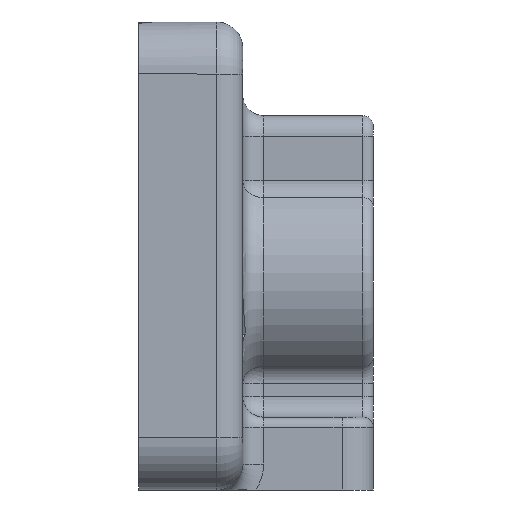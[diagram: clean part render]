
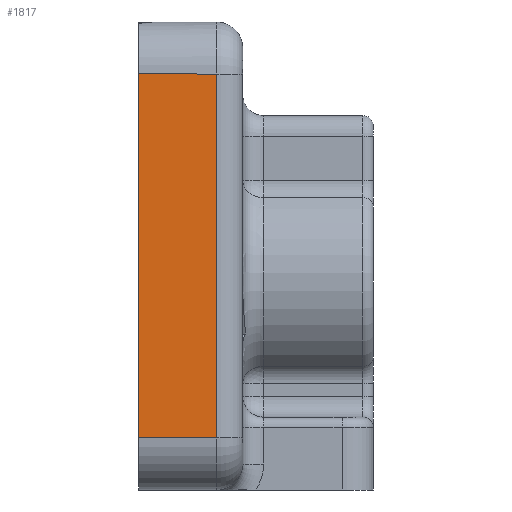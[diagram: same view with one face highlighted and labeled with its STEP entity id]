
A CAD part, left-side view. The second image highlights one B-rep face of the part: STEP entity #1817.
In plain terms, the highlighted planar face has unit normal (-1, 0, 0).
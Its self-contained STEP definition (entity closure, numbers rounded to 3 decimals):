
#79 = LINE ( 'NONE', #1986, #82 ) ;
#82 = VECTOR ( 'NONE', #1993, 1000. ) ;
#104 = VECTOR ( 'NONE', #1925, 1000. ) ;
#108 = LINE ( 'NONE', #1927, #104 ) ;
#325 = EDGE_CURVE ( 'NONE', #3486, #3494, #4153, .T. ) ;
#366 = EDGE_CURVE ( 'NONE', #3443, #3486, #79, .T. ) ;
#386 = EDGE_CURVE ( 'NONE', #3443, #3490, #108, .T. ) ;
#446 = EDGE_CURVE ( 'NONE', #3494, #3490, #4519, .T. ) ;
#1063 = CARTESIAN_POINT ( 'NONE',  ( -34., -10., 20. ) ) ;
#1065 = DIRECTION ( 'NONE',  ( 0., 1., 0. ) ) ;
#1282 = CARTESIAN_POINT ( 'NONE',  ( -34., 0., -15. ) ) ;
#1323 = CARTESIAN_POINT ( 'NONE',  ( -34., -7.5, -15. ) ) ;
#1341 = AXIS2_PLACEMENT_3D ( 'NONE', #2121, #2129, #2130 ) ;
#1350 = CARTESIAN_POINT ( 'NONE',  ( -34., -7.5, 20. ) ) ;
#1817 = ADVANCED_FACE ( 'NONE', ( #4480 ), #2126, .T. ) ;
#1925 = DIRECTION ( 'NONE',  ( 0., 0., 1. ) ) ;
#1927 = CARTESIAN_POINT ( 'NONE',  ( -34., 0., 25. ) ) ;
#1986 = CARTESIAN_POINT ( 'NONE',  ( -34., -10., -15. ) ) ;
#1993 = DIRECTION ( 'NONE',  ( 0., -1., 0. ) ) ;
#2121 = CARTESIAN_POINT ( 'NONE',  ( -34., -10., 25. ) ) ;
#2126 = PLANE ( 'NONE',  #1341 ) ;
#2129 = DIRECTION ( 'NONE',  ( -1., 0., 0. ) ) ;
#2130 = DIRECTION ( 'NONE',  ( 0., 0., 1. ) ) ;
#2826 = ORIENTED_EDGE ( 'NONE', *, *, #366, .T. ) ;
#2827 = ORIENTED_EDGE ( 'NONE', *, *, #325, .T. ) ;
#2828 = ORIENTED_EDGE ( 'NONE', *, *, #446, .T. ) ;
#2829 = ORIENTED_EDGE ( 'NONE', *, *, #386, .F. ) ;
#3042 = EDGE_LOOP ( 'NONE', ( #2826, #2827, #2828, #2829 ) ) ;
#3315 = CARTESIAN_POINT ( 'NONE',  ( -34., -7.5, 25. ) ) ;
#3321 = DIRECTION ( 'NONE',  ( 0., 0., 1. ) ) ;
#3443 = VERTEX_POINT ( 'NONE', #1282 ) ;
#3486 = VERTEX_POINT ( 'NONE', #1323 ) ;
#3490 = VERTEX_POINT ( 'NONE', #4884 ) ;
#3494 = VERTEX_POINT ( 'NONE', #1350 ) ;
#4153 = LINE ( 'NONE', #3315, #4163 ) ;
#4163 = VECTOR ( 'NONE', #3321, 1000. ) ;
#4480 = FACE_OUTER_BOUND ( 'NONE', #3042, .T. ) ;
#4519 = LINE ( 'NONE', #1063, #4520 ) ;
#4520 = VECTOR ( 'NONE', #1065, 1000. ) ;
#4884 = CARTESIAN_POINT ( 'NONE',  ( -34., 0., 20. ) ) ;
